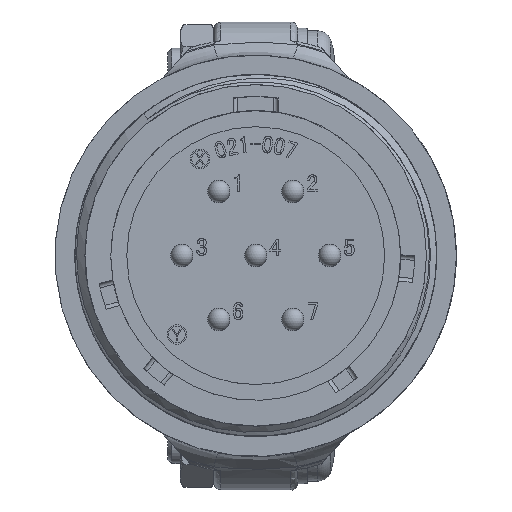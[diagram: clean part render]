
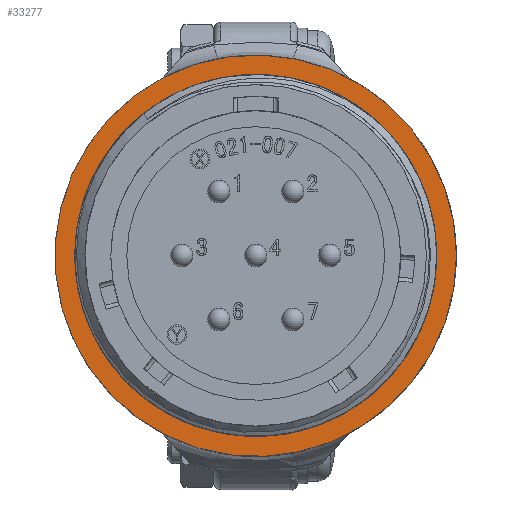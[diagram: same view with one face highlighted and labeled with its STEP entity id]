
A CAD part, top view. The second image highlights one B-rep face of the part: STEP entity #33277.
In plain terms, the highlighted planar face has unit normal (0, 0, 1).
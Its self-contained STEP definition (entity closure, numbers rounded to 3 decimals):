
#5169 = AXIS2_PLACEMENT_3D ( 'NONE', #18116, #33544, #36620 ) ;
#5170 = DIRECTION ( 'NONE',  ( 0., 0., 1. ) ) ;
#6974 = CARTESIAN_POINT ( 'NONE',  ( -11.4, 0., -16.2 ) ) ;
#10006 = EDGE_LOOP ( 'NONE', ( #30272 ) ) ;
#10205 = CARTESIAN_POINT ( 'NONE',  ( 14.4, 0., -16.2 ) ) ;
#10368 = EDGE_CURVE ( 'NONE', #21414, #21414, #36179, .T. ) ;
#18116 = CARTESIAN_POINT ( 'NONE',  ( 0., 0., -16.2 ) ) ;
#18415 = DIRECTION ( 'NONE',  ( 0., 0., 1. ) ) ;
#18555 = PLANE ( 'NONE',  #29472 ) ;
#21198 = FACE_OUTER_BOUND ( 'NONE', #10006, .T. ) ;
#21265 = CARTESIAN_POINT ( 'NONE',  ( 0., 0., -16.2 ) ) ;
#21414 = VERTEX_POINT ( 'NONE', #10205 ) ;
#22260 = EDGE_CURVE ( 'NONE', #29571, #29571, #29829, .T. ) ;
#24911 = AXIS2_PLACEMENT_3D ( 'NONE', #29567, #5170, #35563 ) ;
#24991 = EDGE_LOOP ( 'NONE', ( #29544 ) ) ;
#27702 = DIRECTION ( 'NONE',  ( 1., 0., 0. ) ) ;
#29472 = AXIS2_PLACEMENT_3D ( 'NONE', #21265, #18415, #27702 ) ;
#29544 = ORIENTED_EDGE ( 'NONE', *, *, #22260, .T. ) ;
#29567 = CARTESIAN_POINT ( 'NONE',  ( 0., 0., -16.2 ) ) ;
#29571 = VERTEX_POINT ( 'NONE', #6974 ) ;
#29829 = CIRCLE ( 'NONE', #5169, 11.4 ) ;
#30272 = ORIENTED_EDGE ( 'NONE', *, *, #10368, .T. ) ;
#33277 = ADVANCED_FACE ( 'NONE', ( #21198, #35105 ), #18555, .T. ) ;
#33544 = DIRECTION ( 'NONE',  ( 0., 0., -1. ) ) ;
#35105 = FACE_BOUND ( 'NONE', #24991, .T. ) ;
#35563 = DIRECTION ( 'NONE',  ( 1., 0., 0. ) ) ;
#36179 = CIRCLE ( 'NONE', #24911, 14.4 ) ;
#36620 = DIRECTION ( 'NONE',  ( -1., 0., 0. ) ) ;
